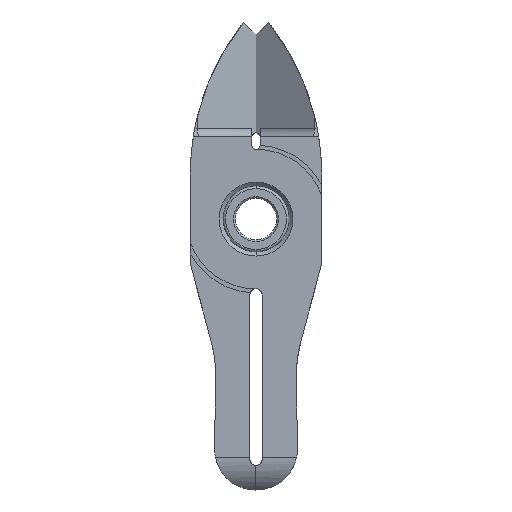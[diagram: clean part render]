
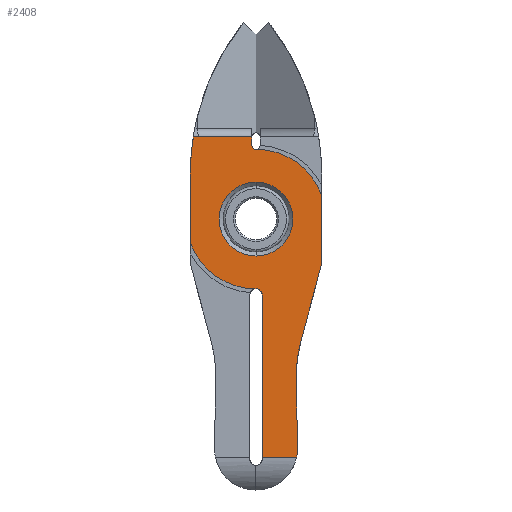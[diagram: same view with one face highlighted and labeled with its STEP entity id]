
A CAD part, front view. The second image highlights one B-rep face of the part: STEP entity #2408.
In plain terms, the highlighted planar face has unit normal (0, -1, 0).
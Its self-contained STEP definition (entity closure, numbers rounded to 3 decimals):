
#1 = LINE ( 'NONE', #395, #3554 ) ;
#54 = VERTEX_POINT ( 'NONE', #901 ) ;
#126 = VERTEX_POINT ( 'NONE', #3065 ) ;
#153 = LINE ( 'NONE', #2493, #4453 ) ;
#209 = VERTEX_POINT ( 'NONE', #1922 ) ;
#215 = VECTOR ( 'NONE', #371, 1000. ) ;
#251 = CARTESIAN_POINT ( 'NONE',  ( 4.926, 0., -19.07 ) ) ;
#299 = EDGE_LOOP ( 'NONE', ( #3395, #3656 ) ) ;
#301 = CARTESIAN_POINT ( 'NONE',  ( 0., 0., 10. ) ) ;
#306 = DIRECTION ( 'NONE',  ( 0., -1., 0. ) ) ;
#309 = CARTESIAN_POINT ( 'NONE',  ( 4.937, 0., -28.998 ) ) ;
#320 = DIRECTION ( 'NONE',  ( 0., 0., -1. ) ) ;
#332 = EDGE_CURVE ( 'NONE', #4188, #209, #1446, .T. ) ;
#371 = DIRECTION ( 'NONE',  ( 0., 0., -1. ) ) ;
#395 = CARTESIAN_POINT ( 'NONE',  ( 0.75, 0., -9.499 ) ) ;
#461 = AXIS2_PLACEMENT_3D ( 'NONE', #3698, #1614, #4041 ) ;
#472 = EDGE_CURVE ( 'NONE', #3471, #126, #1694, .T. ) ;
#543 = CARTESIAN_POINT ( 'NONE',  ( 0., 0., 8.5 ) ) ;
#571 = ORIENTED_EDGE ( 'NONE', *, *, #3246, .T. ) ;
#706 = DIRECTION ( 'NONE',  ( 0., 0., 1. ) ) ;
#777 = DIRECTION ( 'NONE',  ( -0.012, 0., 1. ) ) ;
#782 = VERTEX_POINT ( 'NONE', #2106 ) ;
#808 = DIRECTION ( 'NONE',  ( 0., 1., 0. ) ) ;
#821 = CIRCLE ( 'NONE', #3019, 4.5 ) ;
#846 = CARTESIAN_POINT ( 'NONE',  ( 5.436, 0., -15. ) ) ;
#901 = CARTESIAN_POINT ( 'NONE',  ( 0.75, 0., -28.998 ) ) ;
#955 = ORIENTED_EDGE ( 'NONE', *, *, #4059, .F. ) ;
#964 = EDGE_CURVE ( 'NONE', #4014, #54, #153, .T. ) ;
#1051 = CARTESIAN_POINT ( 'NONE',  ( -0.5, 0., 9. ) ) ;
#1101 = FACE_BOUND ( 'NONE', #299, .T. ) ;
#1111 = AXIS2_PLACEMENT_3D ( 'NONE', #3790, #1709, #4129 ) ;
#1136 = ORIENTED_EDGE ( 'NONE', *, *, #4263, .T. ) ;
#1156 = ORIENTED_EDGE ( 'NONE', *, *, #4304, .T. ) ;
#1167 = DIRECTION ( 'NONE',  ( 0., 0., -1. ) ) ;
#1201 = CARTESIAN_POINT ( 'NONE',  ( 0., 0., -9.25 ) ) ;
#1210 = CARTESIAN_POINT ( 'NONE',  ( 0.037, 0., -28. ) ) ;
#1414 = AXIS2_PLACEMENT_3D ( 'NONE', #4125, #2396, #320 ) ;
#1446 = CIRCLE ( 'NONE', #1414, 4.5 ) ;
#1454 = ORIENTED_EDGE ( 'NONE', *, *, #3575, .T. ) ;
#1480 = CARTESIAN_POINT ( 'NONE',  ( 8., 0., -5.431 ) ) ;
#1496 = EDGE_CURVE ( 'NONE', #4298, #3471, #2075, .T. ) ;
#1526 = EDGE_LOOP ( 'NONE', ( #1136, #2676, #571, #1156, #1454, #2322, #4419, #2560, #2293, #1920, #2079, #2558, #3785, #3896, #955 ) ) ;
#1543 = DIRECTION ( 'NONE',  ( 0., 0., 1. ) ) ;
#1548 = DIRECTION ( 'NONE',  ( 0., 0., 1. ) ) ;
#1614 = DIRECTION ( 'NONE',  ( 0., -1., 0. ) ) ;
#1648 = DIRECTION ( 'NONE',  ( 0., -1., 0. ) ) ;
#1650 = CARTESIAN_POINT ( 'NONE',  ( -0.5, 0., 10. ) ) ;
#1692 = DIRECTION ( 'NONE',  ( 0., -1., 0. ) ) ;
#1694 = CIRCLE ( 'NONE', #4427, 8.5 ) ;
#1709 = DIRECTION ( 'NONE',  ( 0., -1., 0. ) ) ;
#1739 = LINE ( 'NONE', #2846, #4379 ) ;
#1741 = CARTESIAN_POINT ( 'NONE',  ( 8., 0., -9.499 ) ) ;
#1796 = VECTOR ( 'NONE', #706, 1000. ) ;
#1845 = CIRCLE ( 'NONE', #2604, 0.75 ) ;
#1875 = DIRECTION ( 'NONE',  ( 0., 1., 0. ) ) ;
#1907 = VECTOR ( 'NONE', #1167, 1000. ) ;
#1920 = ORIENTED_EDGE ( 'NONE', *, *, #3155, .F. ) ;
#1922 = CARTESIAN_POINT ( 'NONE',  ( 0., 0., -4.5 ) ) ;
#1957 = CARTESIAN_POINT ( 'NONE',  ( 5.037, 0., -27.938 ) ) ;
#1988 = DIRECTION ( 'NONE',  ( 0., 0., 1. ) ) ;
#2035 = PLANE ( 'NONE',  #3024 ) ;
#2070 = CARTESIAN_POINT ( 'NONE',  ( 8., 0., 2.872 ) ) ;
#2075 = LINE ( 'NONE', #3156, #215 ) ;
#2079 = ORIENTED_EDGE ( 'NONE', *, *, #3072, .T. ) ;
#2106 = CARTESIAN_POINT ( 'NONE',  ( 0.75, 0., -9.25 ) ) ;
#2283 = EDGE_CURVE ( 'NONE', #4214, #4298, #3242, .T. ) ;
#2293 = ORIENTED_EDGE ( 'NONE', *, *, #3004, .F. ) ;
#2322 = ORIENTED_EDGE ( 'NONE', *, *, #3251, .T. ) ;
#2365 = CARTESIAN_POINT ( 'NONE',  ( -8., 0., -2.872 ) ) ;
#2376 = CARTESIAN_POINT ( 'NONE',  ( 0., 0., 0. ) ) ;
#2387 = VERTEX_POINT ( 'NONE', #3407 ) ;
#2396 = DIRECTION ( 'NONE',  ( 0., 1., 0. ) ) ;
#2408 = ADVANCED_FACE ( 'NONE', ( #1101, #2827 ), #2035, .T. ) ;
#2423 = AXIS2_PLACEMENT_3D ( 'NONE', #1210, #3630, #1548 ) ;
#2481 = LINE ( 'NONE', #301, #3295 ) ;
#2493 = CARTESIAN_POINT ( 'NONE',  ( 2.468, 0., -28.998 ) ) ;
#2558 = ORIENTED_EDGE ( 'NONE', *, *, #2283, .T. ) ;
#2560 = ORIENTED_EDGE ( 'NONE', *, *, #2854, .T. ) ;
#2585 = CIRCLE ( 'NONE', #2953, 0.5 ) ;
#2602 = CIRCLE ( 'NONE', #2423, 5. ) ;
#2604 = AXIS2_PLACEMENT_3D ( 'NONE', #1201, #3616, #1543 ) ;
#2676 = ORIENTED_EDGE ( 'NONE', *, *, #964, .F. ) ;
#2682 = VERTEX_POINT ( 'NONE', #543 ) ;
#2711 = LINE ( 'NONE', #1741, #1796 ) ;
#2723 = DIRECTION ( 'NONE',  ( -1., 0., 0. ) ) ;
#2725 = DIRECTION ( 'NONE',  ( 1., 0., 0. ) ) ;
#2740 = VERTEX_POINT ( 'NONE', #1957 ) ;
#2827 = FACE_OUTER_BOUND ( 'NONE', #1526, .T. ) ;
#2833 = LINE ( 'NONE', #3220, #1907 ) ;
#2846 = CARTESIAN_POINT ( 'NONE',  ( 5.037, 0., -27.938 ) ) ;
#2854 = EDGE_CURVE ( 'NONE', #2889, #2682, #2918, .T. ) ;
#2878 = CARTESIAN_POINT ( 'NONE',  ( 0., 0., 0. ) ) ;
#2889 = VERTEX_POINT ( 'NONE', #2070 ) ;
#2918 = CIRCLE ( 'NONE', #1111, 8.5 ) ;
#2936 = EDGE_CURVE ( 'NONE', #4350, #2889, #2711, .T. ) ;
#2953 = AXIS2_PLACEMENT_3D ( 'NONE', #3728, #1648, #4075 ) ;
#2993 = VERTEX_POINT ( 'NONE', #251 ) ;
#3004 = EDGE_CURVE ( 'NONE', #4174, #2682, #2585, .T. ) ;
#3019 = AXIS2_PLACEMENT_3D ( 'NONE', #2878, #808, #3215 ) ;
#3024 = AXIS2_PLACEMENT_3D ( 'NONE', #3770, #306, #2725 ) ;
#3065 = CARTESIAN_POINT ( 'NONE',  ( 0., 0., -8.5 ) ) ;
#3072 = EDGE_CURVE ( 'NONE', #4482, #4214, #2481, .T. ) ;
#3094 = DIRECTION ( 'NONE',  ( -1., 0., 0. ) ) ;
#3141 = CARTESIAN_POINT ( 'NONE',  ( -7.638, 0., 10. ) ) ;
#3155 = EDGE_CURVE ( 'NONE', #4482, #4174, #2833, .T. ) ;
#3156 = CARTESIAN_POINT ( 'NONE',  ( -8., 0., -9.499 ) ) ;
#3215 = DIRECTION ( 'NONE',  ( 0., 0., -1. ) ) ;
#3220 = CARTESIAN_POINT ( 'NONE',  ( -0.5, 0., 10. ) ) ;
#3242 = CIRCLE ( 'NONE', #461, 30. ) ;
#3246 = EDGE_CURVE ( 'NONE', #4014, #2740, #2602, .T. ) ;
#3251 = EDGE_CURVE ( 'NONE', #2387, #4350, #4474, .T. ) ;
#3295 = VECTOR ( 'NONE', #2723, 1000. ) ;
#3377 = CIRCLE ( 'NONE', #4196, 15. ) ;
#3395 = ORIENTED_EDGE ( 'NONE', *, *, #3533, .T. ) ;
#3407 = CARTESIAN_POINT ( 'NONE',  ( 5.436, 0., -15. ) ) ;
#3465 = CARTESIAN_POINT ( 'NONE',  ( 0., 0., 4.5 ) ) ;
#3471 = VERTEX_POINT ( 'NONE', #2365 ) ;
#3518 = DIRECTION ( 'NONE',  ( 0., 0., -1. ) ) ;
#3533 = EDGE_CURVE ( 'NONE', #209, #4188, #821, .T. ) ;
#3554 = VECTOR ( 'NONE', #3518, 1000. ) ;
#3575 = EDGE_CURVE ( 'NONE', #2993, #2387, #3377, .T. ) ;
#3616 = DIRECTION ( 'NONE',  ( 0., -1., 0. ) ) ;
#3630 = DIRECTION ( 'NONE',  ( 0., -1., 0. ) ) ;
#3656 = ORIENTED_EDGE ( 'NONE', *, *, #332, .T. ) ;
#3698 = CARTESIAN_POINT ( 'NONE',  ( 22., 0., 5.352 ) ) ;
#3728 = CARTESIAN_POINT ( 'NONE',  ( 0., 0., 9. ) ) ;
#3770 = CARTESIAN_POINT ( 'NONE',  ( -9.6, 0., -32.898 ) ) ;
#3785 = ORIENTED_EDGE ( 'NONE', *, *, #1496, .T. ) ;
#3790 = CARTESIAN_POINT ( 'NONE',  ( 0., 0., 0. ) ) ;
#3881 = CARTESIAN_POINT ( 'NONE',  ( -8., 0., 5.352 ) ) ;
#3896 = ORIENTED_EDGE ( 'NONE', *, *, #472, .T. ) ;
#3953 = CARTESIAN_POINT ( 'NONE',  ( 19.925, 0., -18.883 ) ) ;
#3962 = DIRECTION ( 'NONE',  ( 0.259, 0., 0.966 ) ) ;
#4014 = VERTEX_POINT ( 'NONE', #309 ) ;
#4041 = DIRECTION ( 'NONE',  ( 0., 0., 1. ) ) ;
#4059 = EDGE_CURVE ( 'NONE', #782, #126, #1845, .T. ) ;
#4075 = DIRECTION ( 'NONE',  ( 0., 0., 1. ) ) ;
#4125 = CARTESIAN_POINT ( 'NONE',  ( 0., 0., 0. ) ) ;
#4129 = DIRECTION ( 'NONE',  ( 0., 0., 1. ) ) ;
#4174 = VERTEX_POINT ( 'NONE', #1051 ) ;
#4188 = VERTEX_POINT ( 'NONE', #3465 ) ;
#4196 = AXIS2_PLACEMENT_3D ( 'NONE', #3953, #1875, #4308 ) ;
#4214 = VERTEX_POINT ( 'NONE', #3141 ) ;
#4263 = EDGE_CURVE ( 'NONE', #782, #54, #1, .T. ) ;
#4298 = VERTEX_POINT ( 'NONE', #3881 ) ;
#4304 = EDGE_CURVE ( 'NONE', #2740, #2993, #1739, .T. ) ;
#4308 = DIRECTION ( 'NONE',  ( 0., 0., 1. ) ) ;
#4347 = VECTOR ( 'NONE', #3962, 1000. ) ;
#4350 = VERTEX_POINT ( 'NONE', #1480 ) ;
#4379 = VECTOR ( 'NONE', #777, 1000. ) ;
#4419 = ORIENTED_EDGE ( 'NONE', *, *, #2936, .T. ) ;
#4427 = AXIS2_PLACEMENT_3D ( 'NONE', #2376, #1692, #1988 ) ;
#4453 = VECTOR ( 'NONE', #3094, 1000. ) ;
#4474 = LINE ( 'NONE', #846, #4347 ) ;
#4482 = VERTEX_POINT ( 'NONE', #1650 ) ;
